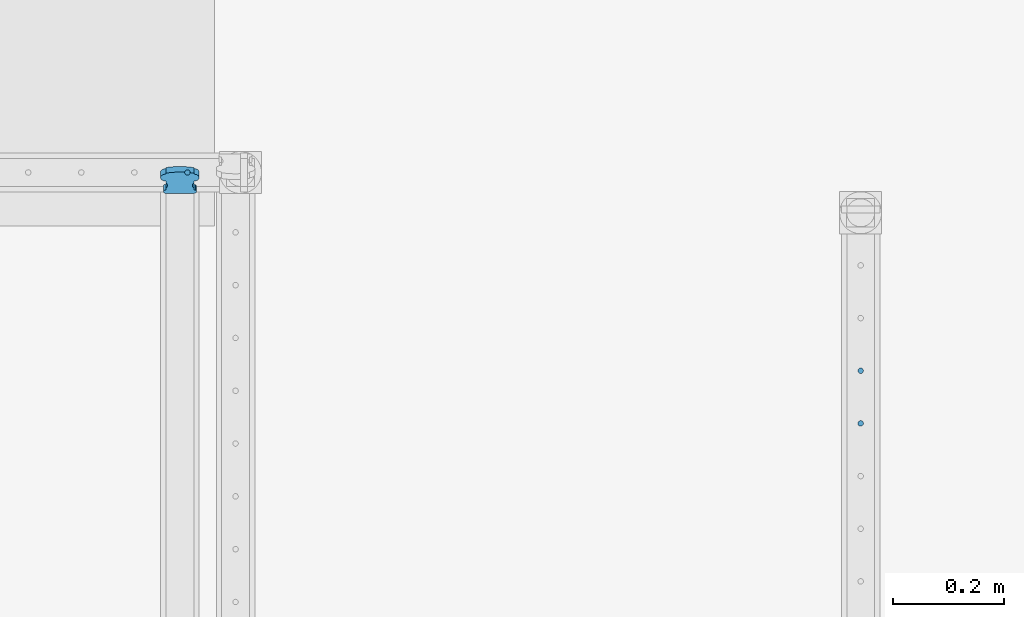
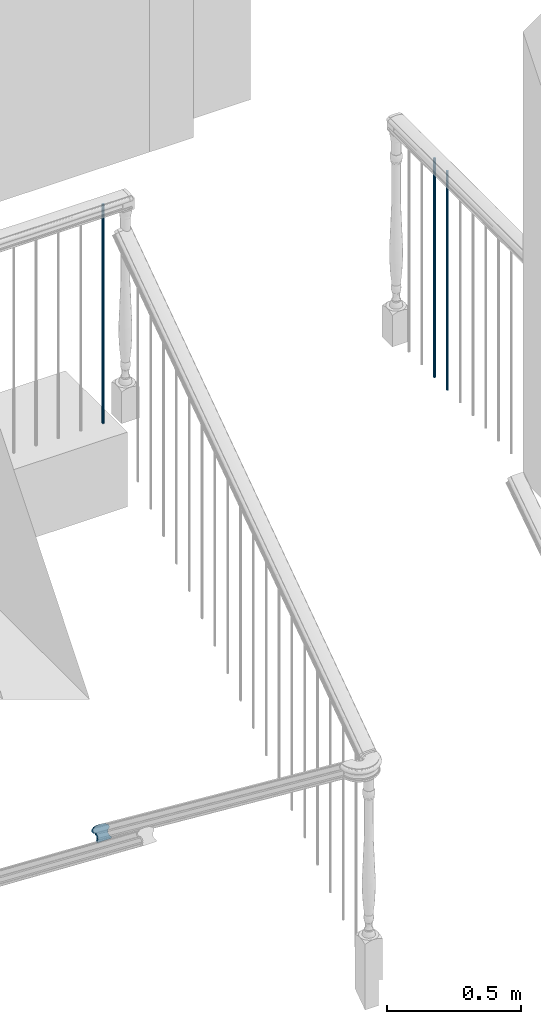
# One storey, part 24 of 77: 4 building element parts, 3 elements without a shape of their own.
"""IFC2X3 building model written with IfcOpenShell, lengths in inches."""

from ifc_helpers import new_model, entity, si_unit, converted_unit, derived_unit, money_unit, direction, frame, origin_with_axes, place, context, subcontext, project, spatial, faceted_brep, material, type_object, element, aggregate, save


model = new_model("IFC2X3")

# Units and contexts
model_context = context("Model", 3, precision=0.000393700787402, world=origin_with_axes(), true_north=direction((0.0, 1.0)))
body_context = subcontext(model_context, "Body", "Model", "MODEL_VIEW")
ifc_project = project(units=[converted_unit("LENGTHUNIT", "INCH", entity("IfcPositiveLengthMeasure", 0.0254), si_unit("LENGTHUNIT", "METRE"), dimensions=[1, 0, 0, 0, 0, 0, 0]), converted_unit("AREAUNIT", "SQUARE_FOOT", entity("IfcPositiveLengthMeasure", 0.09290304), si_unit("AREAUNIT", "SQUARE_METRE"), dimensions=[2, 0, 0, 0, 0, 0, 0]), si_unit("PLANEANGLEUNIT", "RADIAN"), si_unit("SOLIDANGLEUNIT", "STERADIAN"), money_unit("USD"), converted_unit("TIMEUNIT", "Year", entity("IfcTimeMeasure", 31556926.0), si_unit("TIMEUNIT", "SECOND"), dimensions=[0, 0, 1, 0, 0, 0, 0]), si_unit("MASSUNIT", "GRAM", prefix="KILO"), si_unit("THERMODYNAMICTEMPERATUREUNIT", "DEGREE_CELSIUS"), si_unit("LUMINOUSINTENSITYUNIT", "LUMEN"), si_unit("ENERGYUNIT", "JOULE", prefix="MEGA"), derived_unit("THERMALCONDUCTANCEUNIT", [(si_unit("POWERUNIT", "WATT"), 1), (si_unit("LENGTHUNIT", "METRE"), -1), (si_unit("THERMODYNAMICTEMPERATUREUNIT", "KELVIN"), -1)]), derived_unit("SPECIFICHEATCAPACITYUNIT", [(si_unit("ENERGYUNIT", "JOULE"), 1), (si_unit("MASSUNIT", "GRAM", prefix="KILO"), -1), (si_unit("THERMODYNAMICTEMPERATUREUNIT", "KELVIN"), -1)]), derived_unit("MASSDENSITYUNIT", [(si_unit("MASSUNIT", "GRAM", prefix="KILO"), 1), (si_unit("VOLUMEUNIT", "CUBIC_METRE"), -1)])], contexts=[model_context])

# Site, building, storey
site_placement = place(None, origin_with_axes())
site = spatial("IfcSite", under=ifc_project, at=site_placement, Name="Site", CompositionType="ELEMENT")
building_placement = place(site_placement, origin_with_axes())
building = spatial("IfcBuilding", under=site, at=building_placement, Name="Building", CompositionType="ELEMENT")
storey_placement = place(building_placement, frame((0.0, 0.0, 127.952755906), z_axis=(0.0, 0.0, 1.0), x_axis=(1.0, 0.0, 0.0)))
storey = spatial("IfcBuildingStorey", under=building, at=storey_placement, Name="Second Floor", CompositionType="ELEMENT", Elevation=127.953)

# Railing, building element parts
railing_type = type_object("IfcRailingType", Name="Railing Type", PredefinedType="NOTDEFINED")
railing_1_placement = place(storey_placement, frame((726.989643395, 142.006727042, 0.0), z_axis=(0.0, 0.0, 1.0), x_axis=(-1.0, 0.0, 0.0)))
railing_1 = element("IfcRailing", 1, at=railing_1_placement, inside=storey, type_object=railing_type, Name="RAILING - 001", PredefinedType="NOTDEFINED")
ifc_material_1 = material(Name="Steel - Structural")
building_element_part_1_placement = place(railing_1_placement, origin_with_axes())
building_element_part_1 = element("IfcBuildingElementPart", 2, at=building_element_part_1_placement, material=ifc_material_1, Name="Steel - Structural", context=body_context, shape_type="Brep", body=[
    faceted_brep([(-1.96850393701, 11.057206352, -4.94161422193e-07), (-1.93432122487, 11.0601969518, -4.94161422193e-07), (-1.93432122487, 11.0601969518, 39.2125984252), (-1.96850393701, 11.057206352, 39.2125984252), (-2.00268664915, 11.0601969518, -4.94161422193e-07), (-2.03583073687, 11.0690778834, -4.94161422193e-07), (-2.06692913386, 11.083579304, -4.94161422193e-07), (-2.09503693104, 11.1032605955, -4.94161422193e-07), (-2.11930008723, 11.1275237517, -4.94161422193e-07), (-2.1389813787, 11.1556315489, -4.94161422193e-07), (-2.15348279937, 11.1867299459, -4.94161422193e-07), (-2.16236373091, 11.2198740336, -4.94161422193e-07), (-2.16535433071, 11.2540567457, -4.94161422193e-07), (-2.16236373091, 11.2882394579, -4.94161422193e-07), (-2.15348279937, 11.3213835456, -4.94161422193e-07), (-2.1389813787, 11.3524819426, -4.94161422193e-07), (-2.11930008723, 11.3805897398, -4.94161422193e-07), (-2.09503693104, 11.4048528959, -4.94161422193e-07), (-2.06692913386, 11.4245341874, -4.94161422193e-07), (-2.03583073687, 11.4390356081, -4.94161422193e-07), (-2.00268664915, 11.4479165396, -4.94161422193e-07), (-1.96850393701, 11.4509071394, -4.94161422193e-07), (-1.93432122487, 11.4479165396, -4.94161422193e-07), (-1.90117713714, 11.4390356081, -4.94161422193e-07), (-1.87007874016, 11.4245341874, -4.94161422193e-07), (-1.84197094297, 11.4048528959, -4.94161422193e-07), (-1.81770778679, 11.3805897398, -4.94161422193e-07), (-1.79802649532, 11.3524819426, -4.94161422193e-07), (-1.78352507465, 11.3213835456, -4.94161422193e-07), (-1.77464414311, 11.2882394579, -4.94161422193e-07), (-1.77165354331, 11.2540567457, -4.94161422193e-07), (-1.77464414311, 11.2198740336, -4.94161422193e-07), (-1.78352507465, 11.1867299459, -4.94161422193e-07), (-1.79802649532, 11.1556315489, -4.94161422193e-07), (-1.81770778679, 11.1275237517, -4.94161422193e-07), (-1.84197094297, 11.1032605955, -4.94161422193e-07), (-1.87007874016, 11.083579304, -4.94161422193e-07), (-1.90117713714, 11.0690778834, -4.94161422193e-07), (-1.90117713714, 11.0690778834, 39.2125984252), (-1.87007874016, 11.083579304, 39.2125984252), (-1.84197094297, 11.1032605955, 39.2125984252), (-1.81770778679, 11.1275237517, 39.2125984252), (-1.79802649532, 11.1556315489, 39.2125984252), (-1.78352507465, 11.1867299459, 39.2125984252), (-1.77464414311, 11.2198740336, 39.2125984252), (-1.77165354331, 11.2540567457, 39.2125984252), (-1.77464414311, 11.2882394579, 39.2125984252), (-1.78352507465, 11.3213835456, 39.2125984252), (-1.79802649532, 11.3524819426, 39.2125984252), (-1.81770778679, 11.3805897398, 39.2125984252), (-1.84197094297, 11.4048528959, 39.2125984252), (-1.87007874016, 11.4245341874, 39.2125984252), (-1.90117713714, 11.4390356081, 39.2125984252), (-1.93432122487, 11.4479165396, 39.2125984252), (-1.96850393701, 11.4509071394, 39.2125984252), (-2.00268664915, 11.4479165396, 39.2125984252), (-2.03583073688, 11.4390356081, 39.2125984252), (-2.06692913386, 11.4245341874, 39.2125984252), (-2.09503693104, 11.4048528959, 39.2125984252), (-2.11930008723, 11.3805897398, 39.2125984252), (-2.1389813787, 11.3524819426, 39.2125984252), (-2.15348279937, 11.3213835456, 39.2125984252), (-2.16236373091, 11.2882394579, 39.2125984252), (-2.16535433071, 11.2540567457, 39.2125984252), (-2.16236373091, 11.2198740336, 39.2125984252), (-2.15348279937, 11.1867299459, 39.2125984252), (-2.1389813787, 11.1556315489, 39.2125984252), (-2.11930008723, 11.1275237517, 39.2125984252), (-2.09503693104, 11.1032605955, 39.2125984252), (-2.06692913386, 11.083579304, 39.2125984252), (-2.03583073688, 11.0690778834, 39.2125984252), (-2.00268664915, 11.0601969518, 39.2125984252)], [[[0, 1, 2, 3]], [[0, 4, 5, 6, 7, 8, 9, 10, 11, 12, 13, 14, 15, 16, 17, 18, 19, 20, 21, 22, 23, 24, 25, 26, 27, 28, 29, 30, 31, 32, 33, 34, 35, 36, 37, 1]], [[1, 37, 38, 2]], [[3, 2, 38, 39, 40, 41, 42, 43, 44, 45, 46, 47, 48, 49, 50, 51, 52, 53, 54, 55, 56, 57, 58, 59, 60, 61, 62, 63, 64, 65, 66, 67, 68, 69, 70, 71]], [[4, 0, 3, 71]], [[5, 4, 71, 70]], [[6, 5, 70, 69]], [[7, 6, 69, 68]], [[8, 7, 68, 67]], [[9, 8, 67, 66]], [[10, 9, 66, 65]], [[11, 10, 65, 64]], [[12, 11, 64, 63]], [[13, 12, 63, 62]], [[14, 13, 62, 61]], [[15, 14, 61, 60]], [[16, 15, 60, 59]], [[17, 16, 59, 58]], [[18, 17, 58, 57]], [[19, 18, 57, 56]], [[20, 19, 56, 55]], [[21, 20, 55, 54]], [[22, 21, 54, 53]], [[23, 22, 53, 52]], [[24, 23, 52, 51]], [[25, 24, 51, 50]], [[26, 25, 50, 49]], [[27, 26, 49, 48]], [[28, 27, 48, 47]], [[29, 28, 47, 46]], [[30, 29, 46, 45]], [[31, 30, 45, 44]], [[32, 31, 44, 43]], [[33, 32, 43, 42]], [[34, 33, 42, 41]], [[35, 34, 41, 40]], [[36, 35, 40, 39]], [[37, 36, 39, 38]]]),
])
building_element_part_2_placement = place(railing_1_placement, origin_with_axes())
building_element_part_2 = element("IfcBuildingElementPart", 3, at=building_element_part_2_placement, material=ifc_material_1, Name="Steel - Structural", context=body_context, shape_type="Brep", body=[
    faceted_brep([(-1.96850393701, 14.8085586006, -4.94161422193e-07), (-1.93432122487, 14.8115492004, -4.94161422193e-07), (-1.93432122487, 14.8115492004, 39.2125984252), (-1.96850393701, 14.8085586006, 39.2125984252), (-2.00268664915, 14.8115492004, -4.94161422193e-07), (-2.03583073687, 14.8204301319, -4.94161422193e-07), (-2.06692913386, 14.8349315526, -4.94161422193e-07), (-2.09503693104, 14.8546128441, -4.94161422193e-07), (-2.11930008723, 14.8788760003, -4.94161422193e-07), (-2.1389813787, 14.9069837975, -4.94161422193e-07), (-2.15348279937, 14.9380821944, -4.94161422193e-07), (-2.16236373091, 14.9712262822, -4.94161422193e-07), (-2.16535433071, 15.0054089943, -4.94161422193e-07), (-2.16236373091, 15.0395917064, -4.94161422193e-07), (-2.15348279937, 15.0727357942, -4.94161422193e-07), (-2.1389813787, 15.1038341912, -4.94161422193e-07), (-2.11930008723, 15.1319419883, -4.94161422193e-07), (-2.09503693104, 15.1562051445, -4.94161422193e-07), (-2.06692913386, 15.175886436, -4.94161422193e-07), (-2.03583073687, 15.1903878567, -4.94161422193e-07), (-2.00268664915, 15.1992687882, -4.94161422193e-07), (-1.96850393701, 15.202259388, -4.94161422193e-07), (-1.93432122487, 15.1992687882, -4.94161422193e-07), (-1.90117713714, 15.1903878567, -4.94161422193e-07), (-1.87007874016, 15.175886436, -4.94161422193e-07), (-1.84197094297, 15.1562051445, -4.94161422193e-07), (-1.81770778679, 15.1319419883, -4.94161422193e-07), (-1.79802649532, 15.1038341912, -4.94161422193e-07), (-1.78352507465, 15.0727357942, -4.94161422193e-07), (-1.77464414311, 15.0395917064, -4.94161422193e-07), (-1.77165354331, 15.0054089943, -4.94161422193e-07), (-1.77464414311, 14.9712262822, -4.94161422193e-07), (-1.78352507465, 14.9380821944, -4.94161422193e-07), (-1.79802649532, 14.9069837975, -4.94161422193e-07), (-1.81770778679, 14.8788760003, -4.94161422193e-07), (-1.84197094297, 14.8546128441, -4.94161422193e-07), (-1.87007874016, 14.8349315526, -4.94161422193e-07), (-1.90117713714, 14.8204301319, -4.94161422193e-07), (-1.90117713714, 14.8204301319, 39.2125984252), (-1.87007874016, 14.8349315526, 39.2125984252), (-1.84197094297, 14.8546128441, 39.2125984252), (-1.81770778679, 14.8788760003, 39.2125984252), (-1.79802649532, 14.9069837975, 39.2125984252), (-1.78352507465, 14.9380821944, 39.2125984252), (-1.77464414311, 14.9712262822, 39.2125984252), (-1.77165354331, 15.0054089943, 39.2125984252), (-1.77464414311, 15.0395917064, 39.2125984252), (-1.78352507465, 15.0727357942, 39.2125984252), (-1.79802649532, 15.1038341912, 39.2125984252), (-1.81770778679, 15.1319419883, 39.2125984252), (-1.84197094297, 15.1562051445, 39.2125984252), (-1.87007874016, 15.175886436, 39.2125984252), (-1.90117713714, 15.1903878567, 39.2125984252), (-1.93432122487, 15.1992687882, 39.2125984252), (-1.96850393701, 15.202259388, 39.2125984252), (-2.00268664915, 15.1992687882, 39.2125984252), (-2.03583073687, 15.1903878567, 39.2125984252), (-2.06692913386, 15.175886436, 39.2125984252), (-2.09503693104, 15.1562051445, 39.2125984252), (-2.11930008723, 15.1319419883, 39.2125984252), (-2.1389813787, 15.1038341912, 39.2125984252), (-2.15348279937, 15.0727357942, 39.2125984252), (-2.16236373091, 15.0395917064, 39.2125984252), (-2.16535433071, 15.0054089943, 39.2125984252), (-2.16236373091, 14.9712262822, 39.2125984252), (-2.15348279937, 14.9380821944, 39.2125984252), (-2.1389813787, 14.9069837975, 39.2125984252), (-2.11930008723, 14.8788760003, 39.2125984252), (-2.09503693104, 14.8546128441, 39.2125984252), (-2.06692913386, 14.8349315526, 39.2125984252), (-2.03583073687, 14.8204301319, 39.2125984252), (-2.00268664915, 14.8115492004, 39.2125984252)], [[[0, 1, 2, 3]], [[0, 4, 5, 6, 7, 8, 9, 10, 11, 12, 13, 14, 15, 16, 17, 18, 19, 20, 21, 22, 23, 24, 25, 26, 27, 28, 29, 30, 31, 32, 33, 34, 35, 36, 37, 1]], [[1, 37, 38, 2]], [[3, 2, 38, 39, 40, 41, 42, 43, 44, 45, 46, 47, 48, 49, 50, 51, 52, 53, 54, 55, 56, 57, 58, 59, 60, 61, 62, 63, 64, 65, 66, 67, 68, 69, 70, 71]], [[4, 0, 3, 71]], [[5, 4, 71, 70]], [[6, 5, 70, 69]], [[7, 6, 69, 68]], [[8, 7, 68, 67]], [[9, 8, 67, 66]], [[10, 9, 66, 65]], [[11, 10, 65, 64]], [[12, 11, 64, 63]], [[13, 12, 63, 62]], [[14, 13, 62, 61]], [[15, 14, 61, 60]], [[16, 15, 60, 59]], [[17, 16, 59, 58]], [[18, 17, 58, 57]], [[19, 18, 57, 56]], [[20, 19, 56, 55]], [[21, 20, 55, 54]], [[22, 21, 54, 53]], [[23, 22, 53, 52]], [[24, 23, 52, 51]], [[25, 24, 51, 50]], [[26, 25, 50, 49]], [[27, 26, 49, 48]], [[28, 27, 48, 47]], [[29, 28, 47, 46]], [[30, 29, 46, 45]], [[31, 30, 45, 44]], [[32, 31, 44, 43]], [[33, 32, 43, 42]], [[34, 33, 42, 41]], [[35, 34, 41, 40]], [[36, 35, 40, 39]], [[37, 36, 39, 38]]]),
])
aggregate(railing_1, [building_element_part_1, building_element_part_2])

# Railing, building element part
railing_2_placement = place(storey_placement, frame((643.187139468, 142.90717231, 0.0), z_axis=(0.0, 0.0, 1.0), x_axis=(0.0, 1.0, 0.0)))
railing_2 = element("IfcRailing", 4, at=railing_2_placement, inside=storey, type_object=railing_type, Name="RAILING - 001", PredefinedType="NOTDEFINED")
building_element_part_3_placement = place(railing_2_placement, origin_with_axes())
building_element_part_3 = element("IfcBuildingElementPart", 5, at=building_element_part_3_placement, material=ifc_material_1, Name="Steel - Structural", context=body_context, shape_type="Brep", body=[
    faceted_brep([(1.96850393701, -37.6215377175, -4.94161422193e-07), (1.93432122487, -37.6245283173, -4.94161422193e-07), (1.93432122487, -37.6245283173, 39.2125984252), (1.96850393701, -37.6215377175, 39.2125984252), (2.00268664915, -37.6245283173, -4.94161422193e-07), (2.03583073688, -37.6334092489, -4.94161422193e-07), (2.06692913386, -37.6479106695, -4.94161422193e-07), (2.09503693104, -37.667591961, -4.94161422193e-07), (2.11930008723, -37.6918551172, -4.94161422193e-07), (2.1389813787, -37.7199629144, -4.94161422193e-07), (2.15348279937, -37.7510613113, -4.94161422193e-07), (2.16236373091, -37.7842053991, -4.94161422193e-07), (2.16535433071, -37.8183881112, -4.94161422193e-07), (2.16236373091, -37.8525708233, -4.94161422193e-07), (2.15348279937, -37.8857149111, -4.94161422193e-07), (2.1389813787, -37.9168133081, -4.94161422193e-07), (2.11930008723, -37.9449211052, -4.94161422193e-07), (2.09503693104, -37.9691842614, -4.94161422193e-07), (2.06692913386, -37.9888655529, -4.94161422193e-07), (2.03583073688, -38.0033669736, -4.94161422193e-07), (2.00268664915, -38.0122479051, -4.94161422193e-07), (1.96850393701, -38.0152385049, -4.94161422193e-07), (1.93432122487, -38.0122479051, -4.94161422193e-07), (1.90117713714, -38.0033669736, -4.94161422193e-07), (1.87007874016, -37.9888655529, -4.94161422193e-07), (1.84197094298, -37.9691842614, -4.94161422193e-07), (1.81770778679, -37.9449211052, -4.94161422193e-07), (1.79802649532, -37.9168133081, -4.94161422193e-07), (1.78352507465, -37.8857149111, -4.94161422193e-07), (1.77464414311, -37.8525708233, -4.94161422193e-07), (1.77165354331, -37.8183881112, -4.94161422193e-07), (1.77464414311, -37.7842053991, -4.94161422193e-07), (1.78352507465, -37.7510613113, -4.94161422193e-07), (1.79802649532, -37.7199629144, -4.94161422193e-07), (1.81770778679, -37.6918551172, -4.94161422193e-07), (1.84197094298, -37.667591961, -4.94161422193e-07), (1.87007874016, -37.6479106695, -4.94161422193e-07), (1.90117713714, -37.6334092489, -4.94161422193e-07), (1.90117713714, -37.6334092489, 39.2125984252), (1.87007874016, -37.6479106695, 39.2125984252), (1.84197094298, -37.667591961, 39.2125984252), (1.81770778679, -37.6918551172, 39.2125984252), (1.79802649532, -37.7199629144, 39.2125984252), (1.78352507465, -37.7510613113, 39.2125984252), (1.77464414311, -37.7842053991, 39.2125984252), (1.77165354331, -37.8183881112, 39.2125984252), (1.77464414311, -37.8525708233, 39.2125984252), (1.78352507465, -37.8857149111, 39.2125984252), (1.79802649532, -37.9168133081, 39.2125984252), (1.81770778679, -37.9449211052, 39.2125984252), (1.84197094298, -37.9691842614, 39.2125984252), (1.87007874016, -37.9888655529, 39.2125984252), (1.90117713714, -38.0033669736, 39.2125984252), (1.93432122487, -38.0122479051, 39.2125984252), (1.96850393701, -38.0152385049, 39.2125984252), (2.00268664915, -38.0122479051, 39.2125984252), (2.03583073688, -38.0033669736, 39.2125984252), (2.06692913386, -37.9888655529, 39.2125984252), (2.09503693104, -37.9691842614, 39.2125984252), (2.11930008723, -37.9449211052, 39.2125984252), (2.1389813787, -37.9168133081, 39.2125984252), (2.15348279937, -37.8857149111, 39.2125984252), (2.16236373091, -37.8525708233, 39.2125984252), (2.16535433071, -37.8183881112, 39.2125984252), (2.16236373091, -37.7842053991, 39.2125984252), (2.15348279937, -37.7510613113, 39.2125984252), (2.1389813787, -37.7199629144, 39.2125984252), (2.11930008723, -37.6918551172, 39.2125984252), (2.09503693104, -37.667591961, 39.2125984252), (2.06692913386, -37.6479106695, 39.2125984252), (2.03583073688, -37.6334092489, 39.2125984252), (2.00268664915, -37.6245283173, 39.2125984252)], [[[0, 1, 2, 3]], [[0, 4, 5, 6, 7, 8, 9, 10, 11, 12, 13, 14, 15, 16, 17, 18, 19, 20, 21, 22, 23, 24, 25, 26, 27, 28, 29, 30, 31, 32, 33, 34, 35, 36, 37, 1]], [[1, 37, 38, 2]], [[3, 2, 38, 39, 40, 41, 42, 43, 44, 45, 46, 47, 48, 49, 50, 51, 52, 53, 54, 55, 56, 57, 58, 59, 60, 61, 62, 63, 64, 65, 66, 67, 68, 69, 70, 71]], [[4, 0, 3, 71]], [[5, 4, 71, 70]], [[6, 5, 70, 69]], [[7, 6, 69, 68]], [[8, 7, 68, 67]], [[9, 8, 67, 66]], [[10, 9, 66, 65]], [[11, 10, 65, 64]], [[12, 11, 64, 63]], [[13, 12, 63, 62]], [[14, 13, 62, 61]], [[15, 14, 61, 60]], [[16, 15, 60, 59]], [[17, 16, 59, 58]], [[18, 17, 58, 57]], [[19, 18, 57, 56]], [[20, 19, 56, 55]], [[21, 20, 55, 54]], [[22, 21, 54, 53]], [[23, 22, 53, 52]], [[24, 23, 52, 51]], [[25, 24, 51, 50]], [[26, 25, 50, 49]], [[27, 26, 49, 48]], [[28, 27, 48, 47]], [[29, 28, 47, 46]], [[30, 29, 46, 45]], [[31, 30, 45, 44]], [[32, 31, 44, 43]], [[33, 32, 43, 42]], [[34, 33, 42, 41]], [[35, 34, 41, 40]], [[36, 35, 40, 39]], [[37, 36, 39, 38]]]),
])
aggregate(railing_2, [building_element_part_3])

railing_3_placement = place(storey_placement, frame((680.741415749, 72.1889513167, -111.626157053), z_axis=(0.0, 0.0, 1.0), x_axis=(1.0, 0.0, 0.0)))
railing_3 = element("IfcRailing", 6, at=railing_3_placement, inside=storey, type_object=railing_type, Name="RAILING - 001", PredefinedType="NOTDEFINED")
ifc_material_2 = material(Name="Wood - Structural")
building_element_part_4_placement = place(railing_3_placement, origin_with_axes())
building_element_part_4 = element("IfcBuildingElementPart", 7, at=building_element_part_4_placement, material=ifc_material_2, Name="Wood - Structural", context=body_context, shape_type="Brep", body=[
    faceted_brep([(0.711034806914, 72.6437633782, 39.9025363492), (0.711034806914, 72.5693057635, 39.8050726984), (0.711034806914, 72.9666290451, 39.5015365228), (0.711034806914, 73.0410866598, 39.5990001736), (0.652486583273, 72.6524120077, 39.9138572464), (0.282678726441, 72.6944695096, 39.9689097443), (-0.0914050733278, 72.715578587, 39.9965411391), (-0.46691781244, 72.715578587, 39.9965411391), (-0.841001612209, 72.6944695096, 39.9689097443), (-1.21080946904, 72.6524120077, 39.9138572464), (-1.26935769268, 72.6437633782, 39.9025363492), (-1.26935769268, 72.5693057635, 39.8050726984), (-1.30289554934, 72.5683613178, 39.8038364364), (-1.36895223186, 72.5608488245, 39.7940027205), (-1.4319827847, 72.5460521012, 39.7746340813), (-1.49007205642, 72.5244207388, 39.7463190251), (-1.54145503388, 72.4966119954, 39.7099178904), (-1.58457047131, 72.4634708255, 39.6665367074), (-1.61810832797, 72.4260042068, 39.6174935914), (-1.64104957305, 72.3853505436, 39.5642786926), (-1.65269714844, 72.3427450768, 39.5085089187), (-1.65269714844, 72.2994823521, 39.4518788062), (-1.64104957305, 72.2568768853, 39.3961090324), (-1.61810832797, 72.2162232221, 39.3428941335), (-1.58457047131, 72.1787566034, 39.2938510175), (-1.54145503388, 72.1456154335, 39.2504698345), (-1.49007205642, 72.1178066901, 39.2140686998), (-1.4319827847, 72.0961753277, 39.1857536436), (-1.36895223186, 72.0813786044, 39.1663850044), (-1.30289554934, 72.0738661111, 39.1565512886), (-1.26935769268, 72.0729216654, 39.1553150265), (-1.26935769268, 71.9488256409, 38.9928756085), (-1.24678082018, 71.9297358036, 38.967887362), (-1.20698764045, 71.8852810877, 38.9096969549), (-1.17976750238, 71.8370448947, 38.8465566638), (-1.1659474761, 71.7864928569, 38.7803849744), (-1.1659474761, 71.7351609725, 38.71319248), (-1.17976750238, 71.6846089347, 38.6470207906), (-1.20698764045, 71.6363727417, 38.5838804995), (-1.24678082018, 71.5919180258, 38.5256900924), (-1.26935769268, 71.5728281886, 38.5007018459), (-1.26935769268, 71.448732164, 38.3382624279), (-1.28612662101, 71.4482599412, 38.3376442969), (-1.31915496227, 71.4445036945, 38.332727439), (-1.35067023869, 71.4371053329, 38.3230431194), (-1.37971487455, 71.4262896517, 38.3088855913), (-1.40540636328, 71.41238528, 38.2906850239), (-1.426964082, 71.395814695, 38.2689944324), (-1.44373301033, 71.3770813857, 38.2444728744), (-1.45520363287, 71.3567545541, 38.217865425), (-1.46102742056, 71.3354518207, 38.1899805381), (-1.46102742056, 71.3138204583, 38.1616654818), (-1.45520363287, 71.2925177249, 38.1337805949), (-1.44373301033, 71.2721908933, 38.1071731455), (-1.426964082, 71.253457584, 38.0826515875), (-1.40540636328, 71.236886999, 38.060960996), (-1.37971487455, 71.2229826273, 38.0427604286), (-1.35067023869, 71.2121669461, 38.0286029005), (-1.31915496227, 71.2047685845, 38.0189185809), (-1.28612662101, 71.2010123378, 38.014001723), (-1.26935769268, 71.200540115, 38.013383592), (0.711034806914, 71.200540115, 38.013383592), (0.727803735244, 71.2010123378, 38.014001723), (0.760832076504, 71.2047685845, 38.0189185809), (0.792347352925, 71.2121669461, 38.0286029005), (0.821391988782, 71.2229826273, 38.0427604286), (0.847083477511, 71.236886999, 38.060960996), (0.868641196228, 71.253457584, 38.0826515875), (0.885410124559, 71.2721908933, 38.1071731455), (0.896880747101, 71.2925177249, 38.1337805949), (0.902704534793, 71.3138204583, 38.1616654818), (0.902704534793, 71.3354518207, 38.1899805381), (0.896880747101, 71.3567545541, 38.217865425), (0.885410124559, 71.3770813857, 38.2444728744), (0.868641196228, 71.395814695, 38.2689944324), (0.847083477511, 71.41238528, 38.2906850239), (0.821391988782, 71.4262896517, 38.3088855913), (0.792347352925, 71.4371053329, 38.3230431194), (0.760832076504, 71.4445036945, 38.332727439), (0.727803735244, 71.4482599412, 38.3376442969), (0.711034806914, 71.448732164, 38.3382624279), (0.711034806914, 71.5728281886, 38.5007018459), (0.688457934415, 71.5919180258, 38.5256900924), (0.648664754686, 71.6363727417, 38.5838804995), (0.621444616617, 71.6846089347, 38.6470207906), (0.60762459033, 71.7351609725, 38.71319248), (0.60762459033, 71.7864928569, 38.7803849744), (0.621444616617, 71.8370448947, 38.8465566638), (0.648664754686, 71.8852810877, 38.9096969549), (0.688457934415, 71.9297358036, 38.967887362), (0.711034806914, 71.9488256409, 38.9928756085), (0.711034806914, 72.0729216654, 39.1553150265), (0.744572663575, 72.0738661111, 39.1565512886), (0.810629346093, 72.0813786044, 39.1663850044), (0.873659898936, 72.0961753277, 39.1857536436), (0.931749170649, 72.1178066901, 39.2140686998), (0.983132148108, 72.1456154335, 39.2504698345), (1.02624758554, 72.1787566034, 39.2938510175), (1.0597854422, 72.2162232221, 39.3428941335), (1.08272668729, 72.2568768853, 39.3961090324), (1.09437426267, 72.2994823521, 39.4518788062), (1.09437426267, 72.3427450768, 39.5085089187), (1.08272668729, 72.3853505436, 39.5642786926), (1.0597854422, 72.4260042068, 39.6174935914), (1.02624758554, 72.4634708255, 39.6665367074), (0.983132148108, 72.4966119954, 39.7099178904), (0.931749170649, 72.5244207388, 39.7463190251), (0.873659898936, 72.5460521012, 39.7746340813), (0.810629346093, 72.5608488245, 39.7940027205), (0.744572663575, 72.5683613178, 39.8038364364), (0.744572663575, 72.9656845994, 39.5003002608), (0.810629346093, 72.9581721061, 39.4904665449), (0.873659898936, 72.9433753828, 39.4710979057), (0.931749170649, 72.9217440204, 39.4427828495), (0.983132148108, 72.893935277, 39.4063817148), (1.02624758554, 72.8607941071, 39.3630005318), (1.0597854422, 72.8233274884, 39.3139574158), (1.08272668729, 72.7826738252, 39.260742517), (1.09437426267, 72.7400683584, 39.2049727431), (1.09437426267, 72.6968056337, 39.1483426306), (1.08272668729, 72.6542001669, 39.0925728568), (1.0597854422, 72.6135465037, 39.0393579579), (1.02624758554, 72.576079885, 38.9903148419), (0.983132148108, 72.5429387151, 38.9469336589), (0.931749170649, 72.5151299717, 38.9105325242), (0.873659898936, 72.4934986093, 38.882217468), (0.810629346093, 72.478701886, 38.8628488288), (0.744572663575, 72.4711893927, 38.853015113), (0.711034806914, 72.470244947, 38.8517788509), (0.711034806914, 72.3461489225, 38.6893394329), (0.688457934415, 72.3270590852, 38.6643511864), (0.648664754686, 72.2826043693, 38.6061607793), (0.621444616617, 72.2343681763, 38.5430204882), (0.60762459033, 72.1838161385, 38.4768487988), (0.60762459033, 72.1324842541, 38.4096563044), (0.621444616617, 72.0819322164, 38.343484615), (0.648664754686, 72.0336960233, 38.2803443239), (0.688457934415, 71.9892413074, 38.2221539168), (0.711034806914, 71.9701514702, 38.1971656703), (0.711034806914, 71.8460554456, 38.0347262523), (0.727803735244, 71.8455832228, 38.0341081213), (0.760832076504, 71.8418269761, 38.0291912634), (0.792347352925, 71.8344286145, 38.0195069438), (0.821391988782, 71.8236129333, 38.0053494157), (0.847083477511, 71.8097085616, 37.9871488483), (0.868641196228, 71.7931379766, 37.9654582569), (0.885410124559, 71.7744046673, 37.9409366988), (0.896880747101, 71.7540778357, 37.9143292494), (0.902704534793, 71.7327751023, 37.8864443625), (0.902704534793, 71.7111437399, 37.8581293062), (0.896880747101, 71.6898410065, 37.8302444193), (0.885410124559, 71.6695141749, 37.8036369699), (0.868641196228, 71.6507808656, 37.7791154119), (0.847083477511, 71.6342102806, 37.7574248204), (0.821391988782, 71.6203059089, 37.7392242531), (0.792347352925, 71.6094902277, 37.7250667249), (0.760832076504, 71.6020918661, 37.7153824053), (0.727803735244, 71.5983356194, 37.7104655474), (0.711034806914, 71.5978633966, 37.7098474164), (-1.26935769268, 71.5978633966, 37.7098474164), (-1.28612662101, 71.5983356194, 37.7104655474), (-1.31915496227, 71.6020918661, 37.7153824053), (-1.35067023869, 71.6094902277, 37.7250667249), (-1.37971487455, 71.6203059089, 37.7392242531), (-1.40540636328, 71.6342102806, 37.7574248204), (-1.426964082, 71.6507808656, 37.7791154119), (-1.44373301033, 71.6695141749, 37.8036369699), (-1.45520363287, 71.6898410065, 37.8302444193), (-1.46102742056, 71.7111437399, 37.8581293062), (-1.46102742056, 71.7327751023, 37.8864443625), (-1.45520363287, 71.7540778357, 37.9143292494), (-1.44373301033, 71.7744046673, 37.9409366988), (-1.426964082, 71.7931379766, 37.9654582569), (-1.40540636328, 71.8097085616, 37.9871488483), (-1.37971487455, 71.8236129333, 38.0053494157), (-1.35067023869, 71.8344286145, 38.0195069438), (-1.31915496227, 71.8418269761, 38.0291912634), (-1.28612662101, 71.8455832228, 38.0341081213), (-1.26935769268, 71.8460554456, 38.0347262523), (-1.26935769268, 71.9701514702, 38.1971656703), (-1.24678082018, 71.9892413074, 38.2221539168), (-1.20698764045, 72.0336960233, 38.2803443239), (-1.17976750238, 72.0819322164, 38.343484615), (-1.1659474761, 72.1324842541, 38.4096563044), (-1.1659474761, 72.1838161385, 38.4768487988), (-1.17976750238, 72.2343681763, 38.5430204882), (-1.20698764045, 72.2826043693, 38.6061607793), (-1.24678082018, 72.3270590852, 38.6643511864), (-1.26935769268, 72.3461489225, 38.6893394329), (-1.26935769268, 72.470244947, 38.8517788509), (-1.30289554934, 72.4711893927, 38.853015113), (-1.36895223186, 72.478701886, 38.8628488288), (-1.4319827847, 72.4934986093, 38.882217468), (-1.49007205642, 72.5151299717, 38.9105325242), (-1.54145503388, 72.5429387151, 38.9469336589), (-1.58457047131, 72.576079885, 38.9903148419), (-1.61810832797, 72.6135465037, 39.0393579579), (-1.64104957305, 72.6542001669, 39.0925728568), (-1.65269714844, 72.6968056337, 39.1483426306), (-1.65269714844, 72.7400683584, 39.2049727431), (-1.64104957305, 72.7826738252, 39.260742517), (-1.61810832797, 72.8233274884, 39.3139574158), (-1.58457047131, 72.8607941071, 39.3630005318), (-1.54145503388, 72.893935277, 39.4063817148), (-1.49007205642, 72.9217440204, 39.4427828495), (-1.4319827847, 72.9433753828, 39.4710979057), (-1.36895223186, 72.9581721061, 39.4904665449), (-1.30289554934, 72.9656845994, 39.5003002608), (-1.26935769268, 72.9666290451, 39.5015365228), (-1.26935769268, 73.0410866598, 39.5990001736), (-1.21080946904, 73.0497352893, 39.6103210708), (-0.841001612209, 73.0917927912, 39.6653735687), (-0.46691781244, 73.1129018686, 39.6930049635), (-0.0914050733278, 73.1129018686, 39.6930049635), (0.282678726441, 73.0917927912, 39.6653735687), (0.652486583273, 73.0497352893, 39.6103210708)], [[[0, 1, 2, 3]], [[0, 4, 5, 6, 7, 8, 9, 10, 11, 12, 13, 14, 15, 16, 17, 18, 19, 20, 21, 22, 23, 24, 25, 26, 27, 28, 29, 30, 31, 32, 33, 34, 35, 36, 37, 38, 39, 40, 41, 42, 43, 44, 45, 46, 47, 48, 49, 50, 51, 52, 53, 54, 55, 56, 57, 58, 59, 60, 61, 62, 63, 64, 65, 66, 67, 68, 69, 70, 71, 72, 73, 74, 75, 76, 77, 78, 79, 80, 81, 82, 83, 84, 85, 86, 87, 88, 89, 90, 91, 92, 93, 94, 95, 96, 97, 98, 99, 100, 101, 102, 103, 104, 105, 106, 107, 108, 109, 1]], [[1, 109, 110, 2]], [[3, 2, 110, 111, 112, 113, 114, 115, 116, 117, 118, 119, 120, 121, 122, 123, 124, 125, 126, 127, 128, 129, 130, 131, 132, 133, 134, 135, 136, 137, 138, 139, 140, 141, 142, 143, 144, 145, 146, 147, 148, 149, 150, 151, 152, 153, 154, 155, 156, 157, 158, 159, 160, 161, 162, 163, 164, 165, 166, 167, 168, 169, 170, 171, 172, 173, 174, 175, 176, 177, 178, 179, 180, 181, 182, 183, 184, 185, 186, 187, 188, 189, 190, 191, 192, 193, 194, 195, 196, 197, 198, 199, 200, 201, 202, 203, 204, 205, 206, 207, 208, 209, 210, 211, 212, 213, 214, 215]], [[4, 0, 3, 215]], [[5, 4, 215, 214]], [[6, 5, 214, 213]], [[7, 6, 213, 212]], [[8, 7, 212, 211]], [[9, 8, 211, 210]], [[10, 9, 210, 209]], [[11, 10, 209, 208]], [[12, 11, 208, 207]], [[13, 12, 207, 206]], [[14, 13, 206, 205]], [[15, 14, 205, 204]], [[16, 15, 204, 203]], [[17, 16, 203, 202]], [[18, 17, 202, 201]], [[19, 18, 201, 200]], [[20, 19, 200, 199]], [[21, 20, 199, 198]], [[22, 21, 198, 197]], [[23, 22, 197, 196]], [[24, 23, 196, 195]], [[25, 24, 195, 194]], [[26, 25, 194, 193]], [[27, 26, 193, 192]], [[28, 27, 192, 191]], [[29, 28, 191, 190]], [[30, 29, 190, 189]], [[31, 30, 189, 188]], [[32, 31, 188, 187]], [[33, 32, 187, 186]], [[34, 33, 186, 185]], [[35, 34, 185, 184]], [[36, 35, 184, 183]], [[37, 36, 183, 182]], [[38, 37, 182, 181]], [[39, 38, 181, 180]], [[40, 39, 180, 179]], [[41, 40, 179, 178]], [[42, 41, 178, 177]], [[43, 42, 177, 176]], [[44, 43, 176, 175]], [[45, 44, 175, 174]], [[46, 45, 174, 173]], [[47, 46, 173, 172]], [[48, 47, 172, 171]], [[49, 48, 171, 170]], [[50, 49, 170, 169]], [[51, 50, 169, 168]], [[52, 51, 168, 167]], [[53, 52, 167, 166]], [[54, 53, 166, 165]], [[55, 54, 165, 164]], [[56, 55, 164, 163]], [[57, 56, 163, 162]], [[58, 57, 162, 161]], [[59, 58, 161, 160]], [[60, 59, 160, 159]], [[61, 60, 159, 158]], [[62, 61, 158, 157]], [[63, 62, 157, 156]], [[64, 63, 156, 155]], [[65, 64, 155, 154]], [[66, 65, 154, 153]], [[67, 66, 153, 152]], [[68, 67, 152, 151]], [[69, 68, 151, 150]], [[70, 69, 150, 149]], [[71, 70, 149, 148]], [[72, 71, 148, 147]], [[73, 72, 147, 146]], [[74, 73, 146, 145]], [[75, 74, 145, 144]], [[76, 75, 144, 143]], [[77, 76, 143, 142]], [[78, 77, 142, 141]], [[79, 78, 141, 140]], [[80, 79, 140, 139]], [[81, 80, 139, 138]], [[82, 81, 138, 137]], [[83, 82, 137, 136]], [[84, 83, 136, 135]], [[85, 84, 135, 134]], [[86, 85, 134, 133]], [[87, 86, 133, 132]], [[88, 87, 132, 131]], [[89, 88, 131, 130]], [[90, 89, 130, 129]], [[91, 90, 129, 128]], [[92, 91, 128, 127]], [[93, 92, 127, 126]], [[94, 93, 126, 125]], [[95, 94, 125, 124]], [[96, 95, 124, 123]], [[97, 96, 123, 122]], [[98, 97, 122, 121]], [[99, 98, 121, 120]], [[100, 99, 120, 119]], [[101, 100, 119, 118]], [[102, 101, 118, 117]], [[103, 102, 117, 116]], [[104, 103, 116, 115]], [[105, 104, 115, 114]], [[106, 105, 114, 113]], [[107, 106, 113, 112]], [[108, 107, 112, 111]], [[109, 108, 111, 110]]]),
])
aggregate(railing_3, [building_element_part_4])

save(model, "model.ifc")
